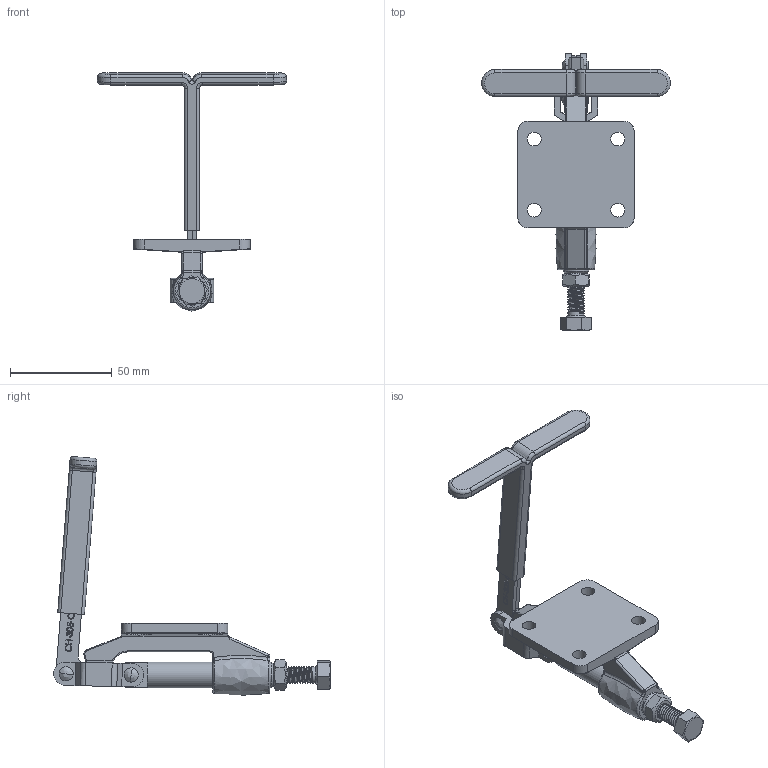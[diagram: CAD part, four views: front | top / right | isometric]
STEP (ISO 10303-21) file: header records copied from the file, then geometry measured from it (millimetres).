
FILE_DESCRIPTION(/* description */ ('STEP AP203'),/* implementation_level */ '2;1');
FILE_NAME(/* name */ 'D:\Vault_2016\Projekty\STRONA\Push-pull clamp\CH-305-CMT\CH-305-CMT_OTWARTY.stp',/* time_stamp */ '2019-01-10T14:52:27+01:00',/* author */ ('user'),/* organization */ ('Î¢ÈíÖÐ¹ú'),/* preprocessor_version */ 'ST-DEVELOPER v17.2',/* originating_system */ 'Autodesk Inventor 2019',/* authorisation */ '');
FILE_SCHEMA (('AUTOMOTIVE_DESIGN { 1 0 10303 214 3 1 1 }'));
Products named in the file (9): CH-305-CMT_OTWARTY; 305-CMT-05_Ä¬ÈÏ; M8 Nut_Ä¬ÈÏ; CH-SA-085012 SPINDLE SUPPLIED_Ä¬ÈÏ; CH-305-CMT T-HANDLE_Ä¬ÈÏ; CH-304-05_Ä¬ÈÏ; CH-304-CM-01 BASE_Ä¬ÈÏ; CH-304-CM-02 CREST STALK_Ä¬ÈÏ; CH-304-04 CONNECTING-PLATE_Ä¬ÈÏ
Assembly tree (11 placements, depth 2):
  CH-305-CMT_OTWARTY
    CH-304-05_Ä¬ÈÏ  x3
    305-CMT-05_Ä¬ÈÏ
    M8 Nut_Ä¬ÈÏ
    CH-304-04 CONNECTING-PLATE_Ä¬ÈÏ  x2
    CH-SA-085012 SPINDLE SUPPLIED_Ä¬ÈÏ
    CH-305-CMT T-HANDLE_Ä¬ÈÏ
    CH-304-CM-01 BASE_Ä¬ÈÏ
    CH-304-CM-02 CREST STALK_Ä¬ÈÏ
Bounding box: 93 x 136.14 x 117.41 mm (x, y, z)
Volume: 57481.1 mm3; surface area: 42781.1 mm2
Topology: 12 solids, 12 shells, 713 faces, 1965 edges, 1298 vertices
Faces by surface type: plane 270, bspline 209, cylinder 188, torus 30, cone 14, sphere 2
Full cylindrical faces by diameter (mm): 1.238 x1, 1.385 x1, 3.022 x3, 4 x14, 6.5 x4, 6.8 x37, 8 x37, 12 x4, 12.7 x2
Entity records: 49821 total; most frequent: CARTESIAN_POINT 33688, ORIENTED_EDGE 3726, DIRECTION 2562, EDGE_CURVE 1863, VERTEX_POINT 1236, LINE 956, VECTOR 956, AXIS2_PLACEMENT_3D 803
